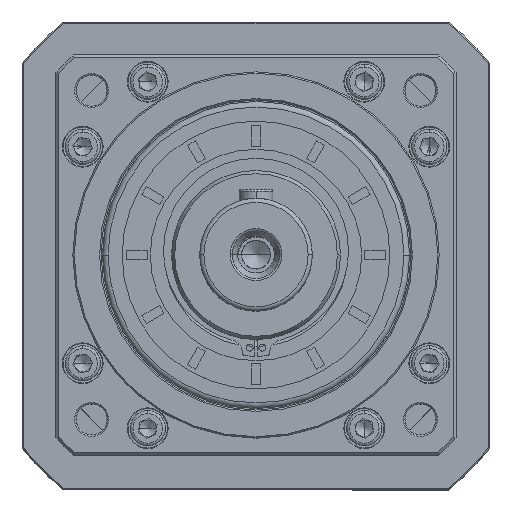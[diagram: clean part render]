
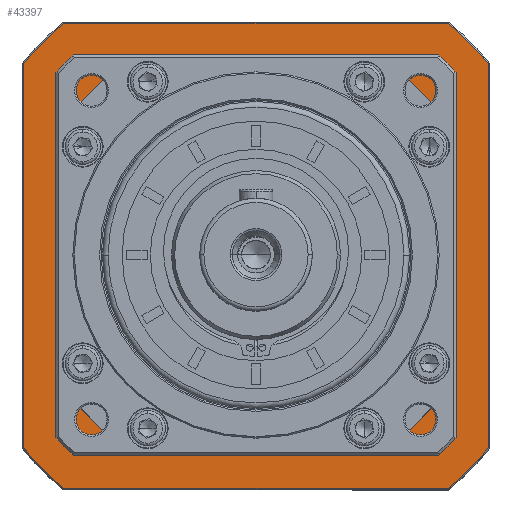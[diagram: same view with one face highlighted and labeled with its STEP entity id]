
A CAD part, top view. The second image highlights one B-rep face of the part: STEP entity #43397.
In plain terms, the highlighted planar face has unit normal (0, 0, 1).
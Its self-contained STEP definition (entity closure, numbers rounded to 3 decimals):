
#381 = AXIS2_PLACEMENT_3D ( 'NONE', #22086, #116530, #86633 ) ;
#879 = CIRCLE ( 'NONE', #99351, 82. ) ;
#1477 = CIRCLE ( 'NONE', #21030, 82. ) ;
#1531 = ORIENTED_EDGE ( 'NONE', *, *, #115244, .F. ) ;
#1917 = EDGE_CURVE ( 'NONE', #47750, #33931, #13663, .T. ) ;
#3430 = EDGE_CURVE ( 'NONE', #56503, #63567, #76257, .T. ) ;
#4595 = DIRECTION ( 'NONE',  ( -1., 0., 0. ) ) ;
#4696 = CARTESIAN_POINT ( 'NONE',  ( -200.514, 52.661, 24.987 ) ) ;
#4851 = VECTOR ( 'NONE', #86185, 1000. ) ;
#4947 = VERTEX_POINT ( 'NONE', #6905 ) ;
#5067 = DIRECTION ( 'NONE',  ( 0., 0., 1. ) ) ;
#5960 = CARTESIAN_POINT ( 'NONE',  ( -118.014, 52.661, 24.987 ) ) ;
#6905 = CARTESIAN_POINT ( 'NONE',  ( -132.376, -29.839, 24.987 ) ) ;
#7841 = LINE ( 'NONE', #5960, #82852 ) ;
#9476 = DIRECTION ( 'NONE',  ( -1., 0., 0. ) ) ;
#12151 = ORIENTED_EDGE ( 'NONE', *, *, #78257, .F. ) ;
#12199 = CARTESIAN_POINT ( 'NONE',  ( -283.014, 120.798, 24.987 ) ) ;
#12440 = CARTESIAN_POINT ( 'NONE',  ( -268.652, -29.839, 24.987 ) ) ;
#13663 = LINE ( 'NONE', #79711, #44543 ) ;
#14104 = EDGE_CURVE ( 'NONE', #83490, #17049, #879, .T. ) ;
#14174 = DIRECTION ( 'NONE',  ( 0., -1., 0. ) ) ;
#15876 = EDGE_CURVE ( 'NONE', #93664, #83490, #23774, .T. ) ;
#16056 = DIRECTION ( 'NONE',  ( 0., 0., 1. ) ) ;
#17049 = VERTEX_POINT ( 'NONE', #48335 ) ;
#17691 = CARTESIAN_POINT ( 'NONE',  ( -271.014, 94.538, 24.987 ) ) ;
#18177 = CARTESIAN_POINT ( 'NONE',  ( -158.636, -17.839, 24.987 ) ) ;
#18462 = DIRECTION ( 'NONE',  ( 0., 0., -1. ) ) ;
#18625 = EDGE_CURVE ( 'NONE', #84855, #99640, #7841, .T. ) ;
#21030 = AXIS2_PLACEMENT_3D ( 'NONE', #60224, #5067, #70889 ) ;
#21282 = CIRCLE ( 'NONE', #104436, 107. ) ;
#22086 = CARTESIAN_POINT ( 'NONE',  ( -200.514, 52.661, 24.987 ) ) ;
#23774 = LINE ( 'NONE', #116762, #57685 ) ;
#23962 = CARTESIAN_POINT ( 'NONE',  ( -130.014, -18.339, 24.987 ) ) ;
#25889 = LINE ( 'NONE', #106163, #28827 ) ;
#26294 = CARTESIAN_POINT ( 'NONE',  ( -200.514, 52.661, 24.987 ) ) ;
#27123 = CARTESIAN_POINT ( 'NONE',  ( -283.014, -15.477, 24.987 ) ) ;
#27484 = CARTESIAN_POINT ( 'NONE',  ( -200.514, 52.661, 24.987 ) ) ;
#28033 = CIRCLE ( 'NONE', #381, 107. ) ;
#28140 = ORIENTED_EDGE ( 'NONE', *, *, #1917, .F. ) ;
#28827 = VECTOR ( 'NONE', #86079, 1000. ) ;
#29553 = EDGE_CURVE ( 'NONE', #115488, #67107, #21282, .T. ) ;
#30106 = ORIENTED_EDGE ( 'NONE', *, *, #18625, .F. ) ;
#31937 = ORIENTED_EDGE ( 'NONE', *, *, #111085, .F. ) ;
#32646 = VECTOR ( 'NONE', #98843, 1000. ) ;
#33931 = VERTEX_POINT ( 'NONE', #74525 ) ;
#34587 = EDGE_CURVE ( 'NONE', #79816, #50086, #57888, .T. ) ;
#36519 = CIRCLE ( 'NONE', #89317, 107. ) ;
#36622 = DIRECTION ( 'NONE',  ( 0., 0., -1. ) ) ;
#38043 = ORIENTED_EDGE ( 'NONE', *, *, #82369, .F. ) ;
#38244 = EDGE_CURVE ( 'NONE', #63567, #96939, #60834, .T. ) ;
#39319 = CARTESIAN_POINT ( 'NONE',  ( -268.652, 135.161, 24.987 ) ) ;
#40396 = AXIS2_PLACEMENT_3D ( 'NONE', #56829, #36622, #94544 ) ;
#41009 = CARTESIAN_POINT ( 'NONE',  ( -118.014, -15.477, 24.987 ) ) ;
#42552 = CARTESIAN_POINT ( 'NONE',  ( -129.514, -17.839, 24.987 ) ) ;
#42781 = DIRECTION ( 'NONE',  ( 0., 0., -1. ) ) ;
#43397 = ADVANCED_FACE ( 'NONE', ( #119170, #47218 ), #85045, .F. ) ;
#43423 = ORIENTED_EDGE ( 'NONE', *, *, #15876, .F. ) ;
#44543 = VECTOR ( 'NONE', #71480, 1000. ) ;
#47218 = FACE_BOUND ( 'NONE', #74964, .T. ) ;
#47657 = VERTEX_POINT ( 'NONE', #12199 ) ;
#47750 = VERTEX_POINT ( 'NONE', #98385 ) ;
#48335 = CARTESIAN_POINT ( 'NONE',  ( -242.392, -17.839, 24.987 ) ) ;
#49826 = CARTESIAN_POINT ( 'NONE',  ( -200.514, 52.661, 24.987 ) ) ;
#50086 = VERTEX_POINT ( 'NONE', #80522 ) ;
#52347 = DIRECTION ( 'NONE',  ( 0., 1., 0. ) ) ;
#54307 = DIRECTION ( 'NONE',  ( 1., 0., 0. ) ) ;
#55813 = CARTESIAN_POINT ( 'NONE',  ( -130.014, 94.538, 24.987 ) ) ;
#56503 = VERTEX_POINT ( 'NONE', #18177 ) ;
#56829 = CARTESIAN_POINT ( 'NONE',  ( -200.514, 52.661, 24.987 ) ) ;
#57685 = VECTOR ( 'NONE', #60988, 1000. ) ;
#57888 = LINE ( 'NONE', #103879, #4851 ) ;
#60224 = CARTESIAN_POINT ( 'NONE',  ( -200.514, 52.661, 24.987 ) ) ;
#60834 = LINE ( 'NONE', #23962, #84397 ) ;
#60988 = DIRECTION ( 'NONE',  ( 0., -1., 0. ) ) ;
#62562 = ORIENTED_EDGE ( 'NONE', *, *, #94391, .F. ) ;
#63567 = VERTEX_POINT ( 'NONE', #65708 ) ;
#65708 = CARTESIAN_POINT ( 'NONE',  ( -130.014, 10.783, 24.987 ) ) ;
#66754 = CIRCLE ( 'NONE', #40396, 107. ) ;
#67107 = VERTEX_POINT ( 'NONE', #27123 ) ;
#69547 = DIRECTION ( 'NONE',  ( 0., 0., 1. ) ) ;
#69686 = EDGE_LOOP ( 'NONE', ( #31937, #107395, #30106, #81477, #69835, #38043, #12151, #95652 ) ) ;
#69835 = ORIENTED_EDGE ( 'NONE', *, *, #34587, .F. ) ;
#70889 = DIRECTION ( 'NONE',  ( 1., 0., 0. ) ) ;
#71480 = DIRECTION ( 'NONE',  ( -1., 0., 0. ) ) ;
#74467 = ORIENTED_EDGE ( 'NONE', *, *, #104289, .F. ) ;
#74525 = CARTESIAN_POINT ( 'NONE',  ( -242.392, 123.161, 24.987 ) ) ;
#74964 = EDGE_LOOP ( 'NONE', ( #74467, #118923, #82043, #62562, #112376, #43423, #1531, #28140 ) ) ;
#76257 = CIRCLE ( 'NONE', #103777, 82. ) ;
#78257 = EDGE_CURVE ( 'NONE', #67107, #47657, #111495, .T. ) ;
#79711 = CARTESIAN_POINT ( 'NONE',  ( -129.514, 123.161, 24.987 ) ) ;
#79816 = VERTEX_POINT ( 'NONE', #39319 ) ;
#80522 = CARTESIAN_POINT ( 'NONE',  ( -132.376, 135.161, 24.987 ) ) ;
#81320 = LINE ( 'NONE', #42552, #32646 ) ;
#81477 = ORIENTED_EDGE ( 'NONE', *, *, #98694, .F. ) ;
#82043 = ORIENTED_EDGE ( 'NONE', *, *, #3430, .F. ) ;
#82369 = EDGE_CURVE ( 'NONE', #47657, #79816, #28033, .T. ) ;
#82400 = DIRECTION ( 'NONE',  ( 0., -1., 0. ) ) ;
#82852 = VECTOR ( 'NONE', #82400, 1000. ) ;
#83490 = VERTEX_POINT ( 'NONE', #119997 ) ;
#84397 = VECTOR ( 'NONE', #52347, 1000. ) ;
#84855 = VERTEX_POINT ( 'NONE', #113985 ) ;
#85045 = PLANE ( 'NONE',  #92696 ) ;
#85374 = EDGE_CURVE ( 'NONE', #99640, #4947, #66754, .T. ) ;
#86079 = DIRECTION ( 'NONE',  ( -1., 0., 0. ) ) ;
#86185 = DIRECTION ( 'NONE',  ( 1., 0., 0. ) ) ;
#86404 = CARTESIAN_POINT ( 'NONE',  ( -200.514, 52.661, 24.987 ) ) ;
#86542 = VECTOR ( 'NONE', #97248, 1000. ) ;
#86633 = DIRECTION ( 'NONE',  ( -1., 0., 0. ) ) ;
#88182 = AXIS2_PLACEMENT_3D ( 'NONE', #49826, #69547, #88817 ) ;
#88817 = DIRECTION ( 'NONE',  ( 0., -1., 0. ) ) ;
#89317 = AXIS2_PLACEMENT_3D ( 'NONE', #86404, #95431, #113117 ) ;
#92696 = AXIS2_PLACEMENT_3D ( 'NONE', #27484, #18462, #9476 ) ;
#93664 = VERTEX_POINT ( 'NONE', #17691 ) ;
#94391 = EDGE_CURVE ( 'NONE', #17049, #56503, #81320, .T. ) ;
#94544 = DIRECTION ( 'NONE',  ( -1., 0., 0. ) ) ;
#95431 = DIRECTION ( 'NONE',  ( 0., 0., -1. ) ) ;
#95652 = ORIENTED_EDGE ( 'NONE', *, *, #29553, .F. ) ;
#96436 = CARTESIAN_POINT ( 'NONE',  ( -283.014, 52.661, 24.987 ) ) ;
#96939 = VERTEX_POINT ( 'NONE', #55813 ) ;
#97248 = DIRECTION ( 'NONE',  ( 0., 1., 0. ) ) ;
#98385 = CARTESIAN_POINT ( 'NONE',  ( -158.636, 123.161, 24.987 ) ) ;
#98694 = EDGE_CURVE ( 'NONE', #50086, #84855, #36519, .T. ) ;
#98843 = DIRECTION ( 'NONE',  ( 1., 0., 0. ) ) ;
#99070 = CARTESIAN_POINT ( 'NONE',  ( -200.514, 52.661, 24.987 ) ) ;
#99351 = AXIS2_PLACEMENT_3D ( 'NONE', #4696, #108643, #14174 ) ;
#99640 = VERTEX_POINT ( 'NONE', #41009 ) ;
#103777 = AXIS2_PLACEMENT_3D ( 'NONE', #26294, #16056, #54307 ) ;
#103879 = CARTESIAN_POINT ( 'NONE',  ( -200.514, 135.161, 24.987 ) ) ;
#104289 = EDGE_CURVE ( 'NONE', #96939, #47750, #119383, .T. ) ;
#104436 = AXIS2_PLACEMENT_3D ( 'NONE', #99070, #42781, #4595 ) ;
#106163 = CARTESIAN_POINT ( 'NONE',  ( -200.514, -29.839, 24.987 ) ) ;
#107395 = ORIENTED_EDGE ( 'NONE', *, *, #85374, .F. ) ;
#108643 = DIRECTION ( 'NONE',  ( 0., 0., 1. ) ) ;
#111085 = EDGE_CURVE ( 'NONE', #4947, #115488, #25889, .T. ) ;
#111495 = LINE ( 'NONE', #96436, #86542 ) ;
#112376 = ORIENTED_EDGE ( 'NONE', *, *, #14104, .F. ) ;
#113117 = DIRECTION ( 'NONE',  ( -1., 0., 0. ) ) ;
#113985 = CARTESIAN_POINT ( 'NONE',  ( -118.014, 120.798, 24.987 ) ) ;
#115244 = EDGE_CURVE ( 'NONE', #33931, #93664, #1477, .T. ) ;
#115488 = VERTEX_POINT ( 'NONE', #12440 ) ;
#116530 = DIRECTION ( 'NONE',  ( 0., 0., -1. ) ) ;
#116762 = CARTESIAN_POINT ( 'NONE',  ( -271.014, -18.339, 24.987 ) ) ;
#118923 = ORIENTED_EDGE ( 'NONE', *, *, #38244, .F. ) ;
#119170 = FACE_OUTER_BOUND ( 'NONE', #69686, .T. ) ;
#119383 = CIRCLE ( 'NONE', #88182, 82. ) ;
#119997 = CARTESIAN_POINT ( 'NONE',  ( -271.014, 10.783, 24.987 ) ) ;
